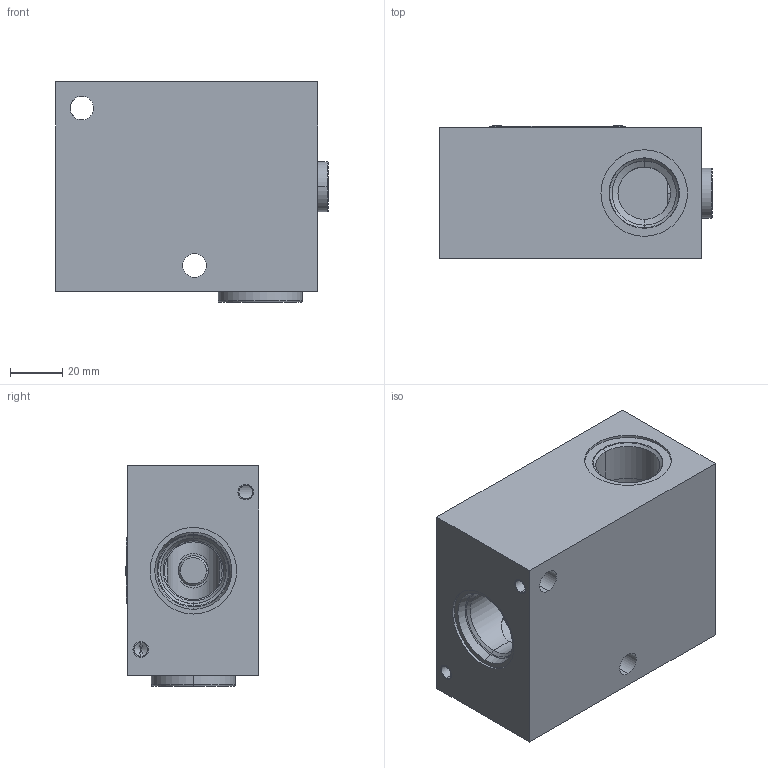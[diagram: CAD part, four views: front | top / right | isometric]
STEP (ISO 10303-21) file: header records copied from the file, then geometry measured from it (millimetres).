
FILE_DESCRIPTION((''),'2;1');
FILE_NAME('1000075422_ASM','2023-10-12T',('l.soukupova'),(''),'PRO/ENGINEER BY PARAMETRIC TECHNOLOGY CORPORATION, 2015440','PRO/ENGINEER BY PARAMETRIC TECHNOLOGY CORPORATION, 2015440','');
FILE_SCHEMA(('AUTOMOTIVE_DESIGN { 1 0 10303 214 1 1 1 1 }'));
Length unit declared in the file: millimetre
Products named in the file (6): KOSTKA_1A; RD_LABEL_25X52_159703; AF_1932_16485; VSTI_1_4_ED_156253; VSTI_3_4_ED; 1000075422_ASM
Assembly tree (6 placements, depth 2):
  1000075422_ASM
    KOSTKA_1A
    RD_LABEL_25X52_159703
    AF_1932_16485  x2
    VSTI_1_4_ED_156253
    VSTI_3_4_ED
Bounding box: 104 x 51 x 84 mm (x, y, z)
Volume: 320408.9 mm3; surface area: 64756.8 mm2
Topology: 6 solids, 15 shells, 222 faces, 560 edges, 397 vertices
Faces by surface type: cylinder 99, plane 61, cone 46, torus 16
Entity records: 9526 total; most frequent: CARTESIAN_POINT 1922, DIRECTION 1237, ORIENTED_EDGE 914, PRESENTATION_STYLE_ASSIGNMENT 580, STYLED_ITEM 560, CURVE_STYLE 546, AXIS2_PLACEMENT_3D 494, EDGE_CURVE 475
